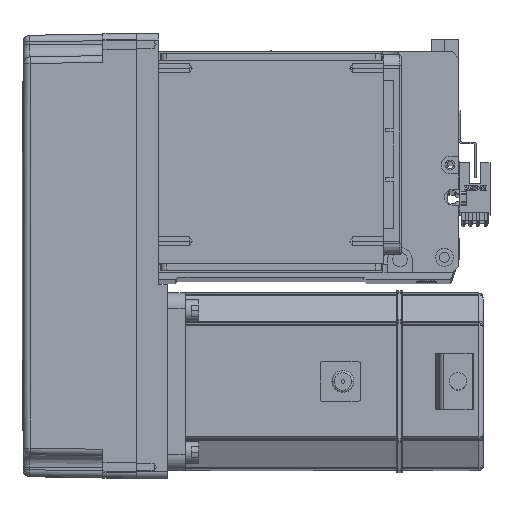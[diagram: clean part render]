
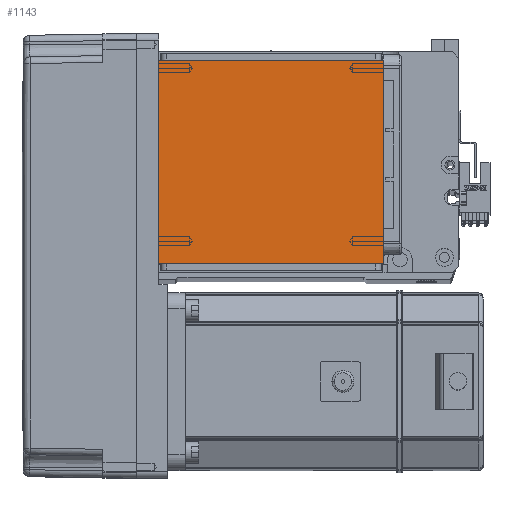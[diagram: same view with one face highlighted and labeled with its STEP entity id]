
A CAD part, top view. The second image highlights one B-rep face of the part: STEP entity #1143.
In plain terms, the highlighted planar face has unit normal (0, 0, 1).
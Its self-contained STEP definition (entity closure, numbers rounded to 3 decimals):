
#1129 = EDGE_CURVE ( 'NONE', #4403, #52835, #23640, .T. ) ;
#1143 = ADVANCED_FACE ( 'NONE', ( #55862 ), #20694, .T. ) ;
#2649 = CARTESIAN_POINT ( 'NONE',  ( 0., 0., 115. ) ) ;
#4004 = VECTOR ( 'NONE', #29541, 1000. ) ;
#4403 = VERTEX_POINT ( 'NONE', #34482 ) ;
#5398 = DIRECTION ( 'NONE',  ( 1., 0., 0. ) ) ;
#8286 = ORIENTED_EDGE ( 'NONE', *, *, #54794, .F. ) ;
#8986 = VECTOR ( 'NONE', #51943, 1000. ) ;
#9594 = CARTESIAN_POINT ( 'NONE',  ( -50.5, 20., 115. ) ) ;
#10809 = CARTESIAN_POINT ( 'NONE',  ( 50.5, 111.5, 115. ) ) ;
#11706 = DIRECTION ( 'NONE',  ( 1., 0., 0. ) ) ;
#13961 = EDGE_CURVE ( 'NONE', #55645, #55529, #19455, .T. ) ;
#19455 = LINE ( 'NONE', #36384, #55827 ) ;
#20694 = PLANE ( 'NONE',  #32015 ) ;
#22364 = EDGE_LOOP ( 'NONE', ( #8286, #25796, #45903, #23023 ) ) ;
#23023 = ORIENTED_EDGE ( 'NONE', *, *, #13961, .T. ) ;
#23640 = LINE ( 'NONE', #30141, #4004 ) ;
#25796 = ORIENTED_EDGE ( 'NONE', *, *, #1129, .T. ) ;
#29541 = DIRECTION ( 'NONE',  ( 0., -1., 0. ) ) ;
#30141 = CARTESIAN_POINT ( 'NONE',  ( -50.5, 122., 115. ) ) ;
#32015 = AXIS2_PLACEMENT_3D ( 'NONE', #2649, #34854, #11706 ) ;
#32848 = LINE ( 'NONE', #42170, #8986 ) ;
#33707 = LINE ( 'NONE', #40857, #47657 ) ;
#34482 = CARTESIAN_POINT ( 'NONE',  ( -50.5, 111.5, 115. ) ) ;
#34854 = DIRECTION ( 'NONE',  ( 0., 0., 1. ) ) ;
#36384 = CARTESIAN_POINT ( 'NONE',  ( 50.5, 122., 115. ) ) ;
#40857 = CARTESIAN_POINT ( 'NONE',  ( -70.004, 111.5, 115. ) ) ;
#41037 = DIRECTION ( 'NONE',  ( 0., 1., 0. ) ) ;
#42170 = CARTESIAN_POINT ( 'NONE',  ( -70.004, 20., 115. ) ) ;
#45903 = ORIENTED_EDGE ( 'NONE', *, *, #53600, .F. ) ;
#47657 = VECTOR ( 'NONE', #5398, 1000. ) ;
#51943 = DIRECTION ( 'NONE',  ( -1., 0., 0. ) ) ;
#52470 = CARTESIAN_POINT ( 'NONE',  ( 50.5, 20., 115. ) ) ;
#52835 = VERTEX_POINT ( 'NONE', #9594 ) ;
#53600 = EDGE_CURVE ( 'NONE', #55645, #52835, #32848, .T. ) ;
#54794 = EDGE_CURVE ( 'NONE', #4403, #55529, #33707, .T. ) ;
#55529 = VERTEX_POINT ( 'NONE', #10809 ) ;
#55645 = VERTEX_POINT ( 'NONE', #52470 ) ;
#55827 = VECTOR ( 'NONE', #41037, 1000. ) ;
#55862 = FACE_OUTER_BOUND ( 'NONE', #22364, .T. ) ;
